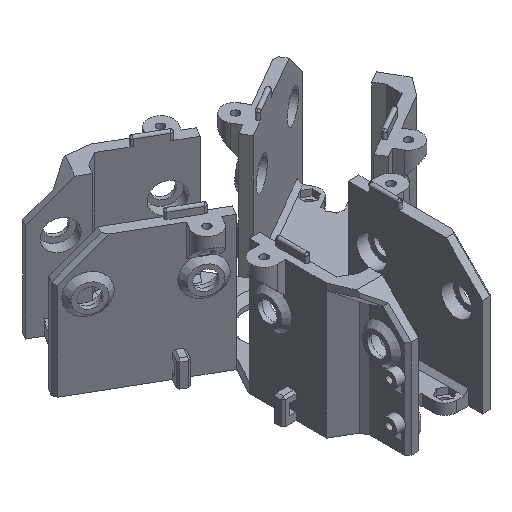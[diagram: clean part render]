
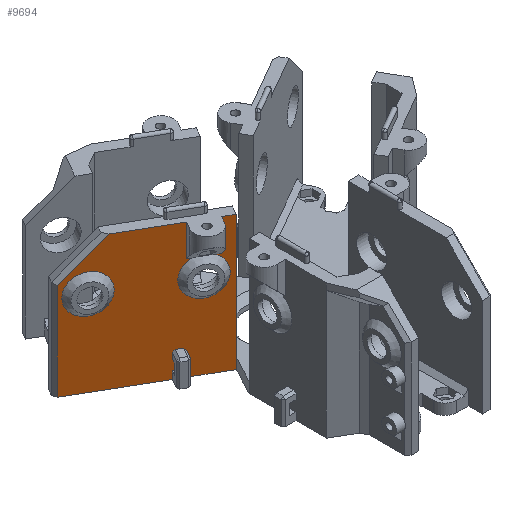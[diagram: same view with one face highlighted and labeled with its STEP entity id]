
A CAD part, isometric view. The second image highlights one B-rep face of the part: STEP entity #9694.
In plain terms, the highlighted planar face has unit normal (-0.5, -0.866, 0).
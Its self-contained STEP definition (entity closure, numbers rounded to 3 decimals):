
#258=LINE('',#13865,#1370);
#586=LINE('',#14744,#1698);
#590=LINE('',#14755,#1702);
#596=LINE('',#14768,#1708);
#608=LINE('',#14790,#1720);
#612=LINE('',#14797,#1724);
#614=LINE('',#14802,#1726);
#620=LINE('',#14813,#1732);
#621=LINE('',#14815,#1733);
#622=LINE('',#14817,#1734);
#624=LINE('',#14820,#1736);
#625=LINE('',#14822,#1737);
#626=LINE('',#14824,#1738);
#627=LINE('',#14826,#1739);
#628=LINE('',#14830,#1740);
#629=LINE('',#14832,#1741);
#630=LINE('',#14834,#1742);
#631=LINE('',#14836,#1743);
#632=LINE('',#14838,#1744);
#633=LINE('',#14839,#1745);
#634=LINE('',#14840,#1746);
#1370=VECTOR('',#11006,10.);
#1698=VECTOR('',#11866,10.);
#1702=VECTOR('',#11874,10.);
#1708=VECTOR('',#11884,10.);
#1720=VECTOR('',#11904,10.);
#1724=VECTOR('',#11908,10.);
#1726=VECTOR('',#11914,10.);
#1732=VECTOR('',#11924,10.);
#1733=VECTOR('',#11927,10.);
#1734=VECTOR('',#11928,10.);
#1736=VECTOR('',#11932,10.);
#1737=VECTOR('',#11933,10.);
#1738=VECTOR('',#11934,10.);
#1739=VECTOR('',#11935,10.);
#1740=VECTOR('',#11938,10.);
#1741=VECTOR('',#11939,10.);
#1742=VECTOR('',#11940,10.);
#1743=VECTOR('',#11941,10.);
#1744=VECTOR('',#11942,10.);
#1745=VECTOR('',#11943,10.);
#1746=VECTOR('',#11944,10.);
#2515=PLANE('',#10330);
#2910=FACE_BOUND('',#3804,.T.);
#2911=FACE_BOUND('',#3805,.T.);
#3215=FACE_OUTER_BOUND('',#3803,.T.);
#3803=EDGE_LOOP('',(#7795,#7796,#7797,#7798,#7799,#7800,#7801,#7802,#7803,
#7804,#7805,#7806,#7807,#7808,#7809,#7810));
#3804=EDGE_LOOP('',(#7811,#7812,#7813,#7814,#7815,#7816));
#3805=EDGE_LOOP('',(#7817));
#4337=CIRCLE('',#10331,9.);
#4338=CIRCLE('',#10332,9.);
#4624=VERTEX_POINT('',#13846);
#4630=VERTEX_POINT('',#13864);
#4895=VERTEX_POINT('',#14742);
#4899=VERTEX_POINT('',#14753);
#4900=VERTEX_POINT('',#14754);
#4904=VERTEX_POINT('',#14766);
#4905=VERTEX_POINT('',#14767);
#4910=VERTEX_POINT('',#14787);
#4911=VERTEX_POINT('',#14789);
#4914=VERTEX_POINT('',#14795);
#4915=VERTEX_POINT('',#14801);
#4918=VERTEX_POINT('',#14811);
#4919=VERTEX_POINT('',#14816);
#4920=VERTEX_POINT('',#14821);
#4921=VERTEX_POINT('',#14823);
#4922=VERTEX_POINT('',#14825);
#4923=VERTEX_POINT('',#14827);
#4924=VERTEX_POINT('',#14829);
#4925=VERTEX_POINT('',#14831);
#4926=VERTEX_POINT('',#14833);
#4927=VERTEX_POINT('',#14835);
#4928=VERTEX_POINT('',#14837);
#4929=VERTEX_POINT('',#14841);
#5538=EDGE_CURVE('',#4630,#4624,#258,.T.);
#5956=EDGE_CURVE('',#4624,#4895,#586,.T.);
#5960=EDGE_CURVE('',#4899,#4900,#590,.F.);
#5966=EDGE_CURVE('',#4904,#4905,#596,.F.);
#5978=EDGE_CURVE('',#4911,#4910,#608,.T.);
#5982=EDGE_CURVE('',#4899,#4914,#612,.T.);
#5984=EDGE_CURVE('',#4915,#4911,#614,.T.);
#5990=EDGE_CURVE('',#4918,#4914,#620,.T.);
#5991=EDGE_CURVE('',#4918,#4905,#621,.T.);
#5992=EDGE_CURVE('',#4919,#4915,#622,.T.);
#5994=EDGE_CURVE('',#4630,#4910,#624,.T.);
#5995=EDGE_CURVE('',#4920,#4895,#625,.T.);
#5996=EDGE_CURVE('',#4920,#4921,#626,.T.);
#5997=EDGE_CURVE('',#4922,#4921,#627,.T.);
#5998=EDGE_CURVE('',#4922,#4923,#4337,.T.);
#5999=EDGE_CURVE('',#4924,#4923,#628,.T.);
#6000=EDGE_CURVE('',#4924,#4925,#629,.T.);
#6001=EDGE_CURVE('',#4926,#4925,#630,.T.);
#6002=EDGE_CURVE('',#4927,#4926,#631,.T.);
#6003=EDGE_CURVE('',#4928,#4927,#632,.T.);
#6004=EDGE_CURVE('',#4919,#4928,#633,.T.);
#6005=EDGE_CURVE('',#4904,#4900,#634,.T.);
#6006=EDGE_CURVE('',#4929,#4929,#4338,.T.);
#7795=ORIENTED_EDGE('',*,*,#5984,.T.);
#7796=ORIENTED_EDGE('',*,*,#5978,.T.);
#7797=ORIENTED_EDGE('',*,*,#5994,.F.);
#7798=ORIENTED_EDGE('',*,*,#5538,.T.);
#7799=ORIENTED_EDGE('',*,*,#5956,.T.);
#7800=ORIENTED_EDGE('',*,*,#5995,.F.);
#7801=ORIENTED_EDGE('',*,*,#5996,.T.);
#7802=ORIENTED_EDGE('',*,*,#5997,.F.);
#7803=ORIENTED_EDGE('',*,*,#5998,.T.);
#7804=ORIENTED_EDGE('',*,*,#5999,.F.);
#7805=ORIENTED_EDGE('',*,*,#6000,.T.);
#7806=ORIENTED_EDGE('',*,*,#6001,.F.);
#7807=ORIENTED_EDGE('',*,*,#6002,.F.);
#7808=ORIENTED_EDGE('',*,*,#6003,.F.);
#7809=ORIENTED_EDGE('',*,*,#6004,.F.);
#7810=ORIENTED_EDGE('',*,*,#5992,.T.);
#7811=ORIENTED_EDGE('',*,*,#5991,.T.);
#7812=ORIENTED_EDGE('',*,*,#5966,.F.);
#7813=ORIENTED_EDGE('',*,*,#6005,.T.);
#7814=ORIENTED_EDGE('',*,*,#5960,.F.);
#7815=ORIENTED_EDGE('',*,*,#5982,.T.);
#7816=ORIENTED_EDGE('',*,*,#5990,.F.);
#7817=ORIENTED_EDGE('',*,*,#6006,.T.);
#9694=ADVANCED_FACE('',(#3215,#2910,#2911),#2515,.T.);
#10330=AXIS2_PLACEMENT_3D('',#14819,#11930,#11931);
#10331=AXIS2_PLACEMENT_3D('',#14828,#11936,#11937);
#10332=AXIS2_PLACEMENT_3D('',#14842,#11945,#11946);
#11006=DIRECTION('',(0.,0.,1.));
#11866=DIRECTION('',(0.,0.,1.));
#11874=DIRECTION('',(0.612,-0.354,-0.707));
#11884=DIRECTION('',(0.612,-0.354,0.707));
#11904=DIRECTION('',(0.,0.,-1.));
#11908=DIRECTION('',(0.,0.,-1.));
#11914=DIRECTION('',(0.866,-0.5,0.));
#11924=DIRECTION('',(0.866,-0.5,0.));
#11927=DIRECTION('',(0.,0.,1.));
#11928=DIRECTION('',(0.,0.,1.));
#11930=DIRECTION('center_axis',(-0.5,-0.866,0.));
#11931=DIRECTION('ref_axis',(0.866,-0.5,0.));
#11932=DIRECTION('',(-0.866,0.5,0.));
#11933=DIRECTION('',(0.866,-0.5,0.));
#11934=DIRECTION('',(0.,0.,-1.));
#11935=DIRECTION('',(0.866,-0.5,0.));
#11936=DIRECTION('center_axis',(0.5,0.866,0.));
#11937=DIRECTION('ref_axis',(0.,0.,1.));
#11938=DIRECTION('',(0.866,-0.5,0.));
#11939=DIRECTION('',(0.,0.,1.));
#11940=DIRECTION('',(0.866,-0.5,0.));
#11941=DIRECTION('',(0.612,-0.354,0.707));
#11942=DIRECTION('',(0.,0.,1.));
#11943=DIRECTION('',(-0.866,0.5,0.));
#11944=DIRECTION('',(0.866,-0.5,0.));
#11945=DIRECTION('center_axis',(0.5,0.866,0.));
#11946=DIRECTION('ref_axis',(0.,0.,1.));
#13846=CARTESIAN_POINT('',(-39.644,12.721,5.));
#13864=CARTESIAN_POINT('',(-39.644,12.721,0.));
#13865=CARTESIAN_POINT('',(-39.644,12.721,0.));
#14742=CARTESIAN_POINT('',(-39.644,12.721,63.));
#14744=CARTESIAN_POINT('',(-39.644,12.721,0.));
#14753=CARTESIAN_POINT('',(-54.367,21.221,11.));
#14754=CARTESIAN_POINT('',(-55.233,21.721,12.));
#14755=CARTESIAN_POINT('',(-62.161,25.721,20.));
#14766=CARTESIAN_POINT('',(-57.831,23.221,12.));
#14767=CARTESIAN_POINT('',(-58.697,23.721,11.));
#14768=CARTESIAN_POINT('',(-69.739,30.096,-1.75));
#14787=CARTESIAN_POINT('',(-54.367,21.221,0.));
#14789=CARTESIAN_POINT('',(-54.367,21.221,3.5));
#14790=CARTESIAN_POINT('',(-54.367,21.221,0.));
#14795=CARTESIAN_POINT('',(-54.367,21.221,8.5));
#14797=CARTESIAN_POINT('',(-54.367,21.221,0.));
#14801=CARTESIAN_POINT('',(-58.697,23.721,3.5));
#14802=CARTESIAN_POINT('',(-58.697,23.721,3.5));
#14811=CARTESIAN_POINT('',(-58.697,23.721,8.5));
#14813=CARTESIAN_POINT('',(-58.697,23.721,8.5));
#14815=CARTESIAN_POINT('',(-58.697,23.721,6.));
#14816=CARTESIAN_POINT('',(-58.697,23.721,0.));
#14817=CARTESIAN_POINT('',(-58.697,23.721,6.));
#14819=CARTESIAN_POINT('Origin',(-94.204,44.221,0.));
#14820=CARTESIAN_POINT('',(-39.644,12.721,0.));
#14821=CARTESIAN_POINT('',(-44.061,15.271,63.));
#14822=CARTESIAN_POINT('',(-39.644,12.721,63.));
#14823=CARTESIAN_POINT('',(-44.061,15.271,48.1));
#14824=CARTESIAN_POINT('',(-44.061,15.271,31.5));
#14825=CARTESIAN_POINT('',(-45.86,16.309,48.1));
#14826=CARTESIAN_POINT('',(-71.73,31.246,48.1));
#14827=CARTESIAN_POINT('',(-52.655,20.232,48.1));
#14828=CARTESIAN_POINT('Origin',(-49.257,18.271,40.));
#14829=CARTESIAN_POINT('',(-54.453,21.271,48.1));
#14830=CARTESIAN_POINT('',(-71.73,31.246,48.1));
#14831=CARTESIAN_POINT('',(-54.453,21.271,63.));
#14832=CARTESIAN_POINT('',(-54.453,21.271,31.5));
#14833=CARTESIAN_POINT('',(-77.644,34.66,63.));
#14834=CARTESIAN_POINT('',(-39.644,12.721,63.));
#14835=CARTESIAN_POINT('',(-92.905,43.471,45.379));
#14836=CARTESIAN_POINT('',(-99.564,47.315,37.689));
#14837=CARTESIAN_POINT('',(-92.905,43.471,0.));
#14838=CARTESIAN_POINT('',(-92.905,43.471,0.));
#14839=CARTESIAN_POINT('',(-39.644,12.721,0.));
#14840=CARTESIAN_POINT('',(-74.285,32.721,12.));
#14841=CARTESIAN_POINT('',(-83.725,38.171,31.));
#14842=CARTESIAN_POINT('Origin',(-83.725,38.171,40.));
